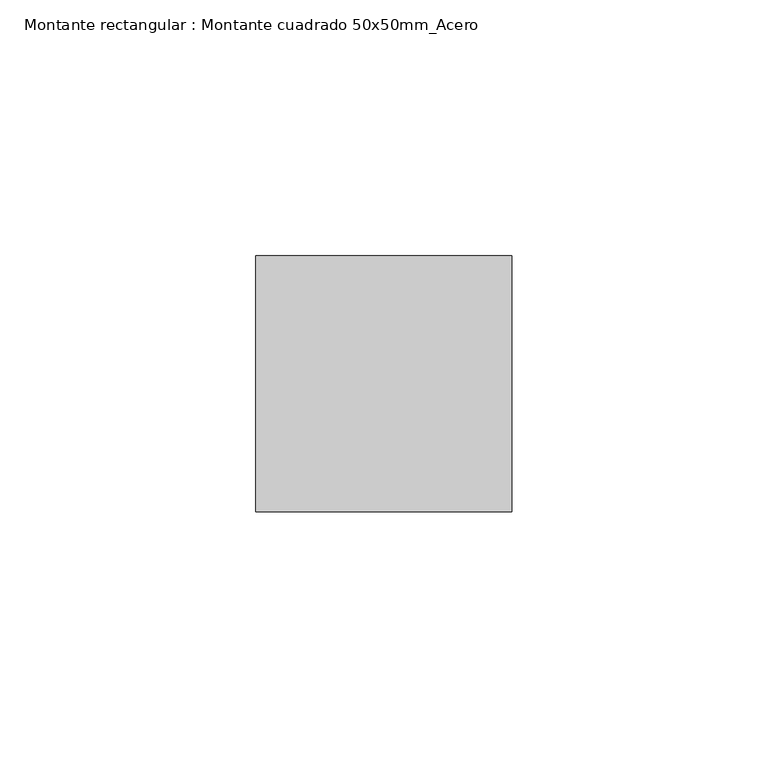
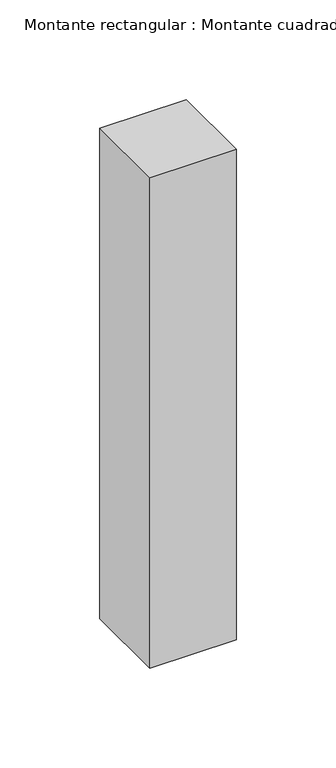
"""IFC4 building model written with IfcOpenShell, lengths in millimetres: member geometry, Montante rectangular : Montante cuadrado 50x50mm_Acero."""

from ifc_helpers import new_model, si_unit, frame, origin, place, context, project, spatial, polyline, outline, extrude, source, transform, mapped, element, save


def montante_rectangular_montante_cuadrado_50x50mm_acero_209acf04(model_context):
    return source(origin(), model_context, "Body", "SweptSolid", [
        extrude(outline(polyline([(-50.0, 0.0), (-50.0, 50.0), (0.0, 50.0), (0.0, 0.0), (-50.0, 0.0)])), frame((0.0, 0.0, -300.0), z_axis=(0.0, 0.0, 1.0), x_axis=(1.0, 0.0, 0.0)), (0.0, 0.0, 1.0), 300.0),
    ])


if __name__ == "__main__":
    model = new_model("IFC4")
    model_context = context("Model", 3, world=origin())
    ifc_project = project(units=[si_unit("LENGTHUNIT", "METRE", prefix="MILLI")], contexts=[model_context])
    site = spatial("IfcSite", under=ifc_project)
    building = spatial("IfcBuilding", under=site)
    placement = place(None, origin())
    montante_rectangular_montante_cuadrado_50x50mm_acero_shape = montante_rectangular_montante_cuadrado_50x50mm_acero_209acf04(model_context)
    element("IfcMember", 1, ObjectType="Montante rectangular : Montante cuadrado 50x50mm_Acero", at=placement, inside=building, context=model_context, shape_type="MappedRepresentation", body=[
        mapped(montante_rectangular_montante_cuadrado_50x50mm_acero_shape, transform((0.0, 0.0, 0.0), x_axis=(1.0, 0.0, 0.0), y_axis=(0.0, 1.0, 0.0), z_axis=(0.0, 0.0, 1.0))),
    ])
    save(model, "model.ifc")
